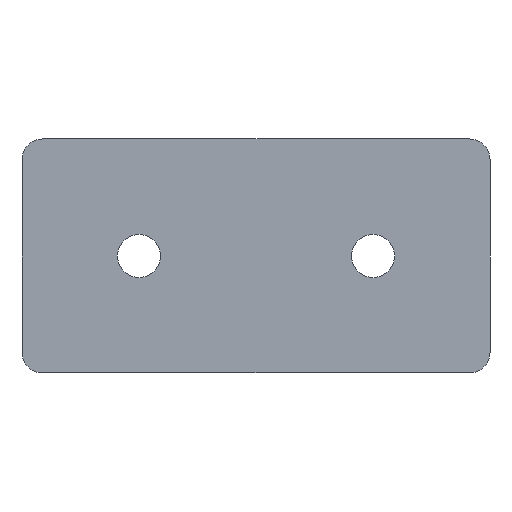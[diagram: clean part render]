
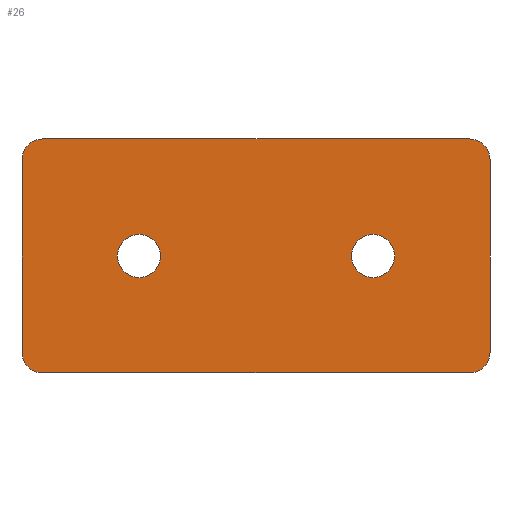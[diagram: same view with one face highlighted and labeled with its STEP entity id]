
A CAD part, front view. The second image highlights one B-rep face of the part: STEP entity #26.
In plain terms, the highlighted planar face has unit normal (0, -1, 0).
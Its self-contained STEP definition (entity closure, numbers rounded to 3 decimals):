
#6 = EDGE_CURVE ( 'NONE', #68, #194, #11, .T. ) ;
#10 = CARTESIAN_POINT ( 'NONE',  ( -41., -5., 18.5 ) ) ;
#11 = LINE ( 'NONE', #204, #326 ) ;
#12 = DIRECTION ( 'NONE',  ( 0., 0., 1. ) ) ;
#13 = DIRECTION ( 'NONE',  ( 1., 0., 0. ) ) ;
#15 = CARTESIAN_POINT ( 'NONE',  ( 41., -5., 18.5 ) ) ;
#16 = CARTESIAN_POINT ( 'NONE',  ( 22.5, -5., 4.15 ) ) ;
#21 = VERTEX_POINT ( 'NONE', #202 ) ;
#22 = AXIS2_PLACEMENT_3D ( 'NONE', #15, #321, #315 ) ;
#26 = ADVANCED_FACE ( 'NONE', ( #126, #122, #244 ), #318, .F. ) ;
#29 = VERTEX_POINT ( 'NONE', #351 ) ;
#30 = DIRECTION ( 'NONE',  ( 1., 0., 0. ) ) ;
#33 = EDGE_LOOP ( 'NONE', ( #101, #416 ) ) ;
#36 = ORIENTED_EDGE ( 'NONE', *, *, #48, .F. ) ;
#39 = CIRCLE ( 'NONE', #317, 4.15 ) ;
#45 = DIRECTION ( 'NONE',  ( 0., 0., 1. ) ) ;
#46 = AXIS2_PLACEMENT_3D ( 'NONE', #10, #246, #393 ) ;
#48 = EDGE_CURVE ( 'NONE', #263, #21, #164, .T. ) ;
#67 = CARTESIAN_POINT ( 'NONE',  ( -22.5, -5., 4.15 ) ) ;
#68 = VERTEX_POINT ( 'NONE', #281 ) ;
#79 = VERTEX_POINT ( 'NONE', #86 ) ;
#80 = CARTESIAN_POINT ( 'NONE',  ( -45., -5., 22.5 ) ) ;
#83 = EDGE_CURVE ( 'NONE', #263, #79, #312, .T. ) ;
#86 = CARTESIAN_POINT ( 'NONE',  ( 41., -5., 22.5 ) ) ;
#89 = EDGE_CURVE ( 'NONE', #489, #68, #392, .T. ) ;
#90 = CIRCLE ( 'NONE', #296, 4.15 ) ;
#91 = CARTESIAN_POINT ( 'NONE',  ( -41., -5., 22.5 ) ) ;
#101 = ORIENTED_EDGE ( 'NONE', *, *, #350, .T. ) ;
#106 = ORIENTED_EDGE ( 'NONE', *, *, #6, .T. ) ;
#120 = VECTOR ( 'NONE', #13, 1000. ) ;
#122 = FACE_BOUND ( 'NONE', #33, .T. ) ;
#123 = EDGE_CURVE ( 'NONE', #444, #412, #39, .T. ) ;
#126 = FACE_BOUND ( 'NONE', #314, .T. ) ;
#131 = CARTESIAN_POINT ( 'NONE',  ( -22.5, -5., 0. ) ) ;
#140 = ORIENTED_EDGE ( 'NONE', *, *, #83, .T. ) ;
#149 = DIRECTION ( 'NONE',  ( 0., -1., 0. ) ) ;
#154 = CARTESIAN_POINT ( 'NONE',  ( 41., -5., -18.5 ) ) ;
#163 = DIRECTION ( 'NONE',  ( 0., 0., -1. ) ) ;
#164 = LINE ( 'NONE', #426, #348 ) ;
#171 = CARTESIAN_POINT ( 'NONE',  ( -45., -5., -18.5 ) ) ;
#175 = AXIS2_PLACEMENT_3D ( 'NONE', #80, #352, #12 ) ;
#194 = VERTEX_POINT ( 'NONE', #171 ) ;
#202 = CARTESIAN_POINT ( 'NONE',  ( 45., -5., -18.5 ) ) ;
#204 = CARTESIAN_POINT ( 'NONE',  ( -45., -5., 22.5 ) ) ;
#206 = EDGE_CURVE ( 'NONE', #381, #29, #408, .T. ) ;
#207 = DIRECTION ( 'NONE',  ( 0., 0., 1. ) ) ;
#214 = DIRECTION ( 'NONE',  ( 0., 0., 1. ) ) ;
#224 = DIRECTION ( 'NONE',  ( 0., 0., 1. ) ) ;
#227 = CARTESIAN_POINT ( 'NONE',  ( -41., -5., -18.5 ) ) ;
#229 = LINE ( 'NONE', #307, #400 ) ;
#244 = FACE_OUTER_BOUND ( 'NONE', #339, .T. ) ;
#246 = DIRECTION ( 'NONE',  ( 0., -1., 0. ) ) ;
#250 = ORIENTED_EDGE ( 'NONE', *, *, #89, .T. ) ;
#259 = DIRECTION ( 'NONE',  ( 0., 1., 0. ) ) ;
#263 = VERTEX_POINT ( 'NONE', #361 ) ;
#272 = AXIS2_PLACEMENT_3D ( 'NONE', #131, #259, #214 ) ;
#274 = EDGE_CURVE ( 'NONE', #29, #381, #364, .T. ) ;
#277 = DIRECTION ( 'NONE',  ( 0., 0., -1. ) ) ;
#278 = ORIENTED_EDGE ( 'NONE', *, *, #385, .T. ) ;
#279 = CIRCLE ( 'NONE', #340, 4. ) ;
#281 = CARTESIAN_POINT ( 'NONE',  ( -45., -5., 18.5 ) ) ;
#282 = CARTESIAN_POINT ( 'NONE',  ( 41., -5., -22.5 ) ) ;
#286 = EDGE_CURVE ( 'NONE', #430, #21, #279, .T. ) ;
#293 = EDGE_CURVE ( 'NONE', #489, #79, #229, .T. ) ;
#296 = AXIS2_PLACEMENT_3D ( 'NONE', #411, #344, #224 ) ;
#297 = AXIS2_PLACEMENT_3D ( 'NONE', #227, #475, #207 ) ;
#301 = ORIENTED_EDGE ( 'NONE', *, *, #293, .F. ) ;
#307 = CARTESIAN_POINT ( 'NONE',  ( -45., -5., 22.5 ) ) ;
#312 = CIRCLE ( 'NONE', #22, 4. ) ;
#314 = EDGE_LOOP ( 'NONE', ( #478, #474 ) ) ;
#315 = DIRECTION ( 'NONE',  ( 0., 0., 1. ) ) ;
#317 = AXIS2_PLACEMENT_3D ( 'NONE', #460, #458, #45 ) ;
#318 = PLANE ( 'NONE',  #175 ) ;
#321 = DIRECTION ( 'NONE',  ( 0., -1., 0. ) ) ;
#322 = CARTESIAN_POINT ( 'NONE',  ( -41., -5., -22.5 ) ) ;
#324 = CARTESIAN_POINT ( 'NONE',  ( -45., -5., -22.5 ) ) ;
#326 = VECTOR ( 'NONE', #163, 1000. ) ;
#332 = ORIENTED_EDGE ( 'NONE', *, *, #286, .T. ) ;
#339 = EDGE_LOOP ( 'NONE', ( #106, #278, #375, #332, #36, #140, #301, #250 ) ) ;
#340 = AXIS2_PLACEMENT_3D ( 'NONE', #154, #149, #372 ) ;
#344 = DIRECTION ( 'NONE',  ( 0., 1., 0. ) ) ;
#348 = VECTOR ( 'NONE', #277, 1000. ) ;
#350 = EDGE_CURVE ( 'NONE', #412, #444, #90, .T. ) ;
#351 = CARTESIAN_POINT ( 'NONE',  ( -22.5, -5., -4.15 ) ) ;
#352 = DIRECTION ( 'NONE',  ( 0., 1., 0. ) ) ;
#361 = CARTESIAN_POINT ( 'NONE',  ( 45., -5., 18.5 ) ) ;
#364 = CIRCLE ( 'NONE', #420, 4.15 ) ;
#372 = DIRECTION ( 'NONE',  ( 0., 0., 1. ) ) ;
#375 = ORIENTED_EDGE ( 'NONE', *, *, #398, .T. ) ;
#376 = CARTESIAN_POINT ( 'NONE',  ( -22.5, -5., 0. ) ) ;
#381 = VERTEX_POINT ( 'NONE', #67 ) ;
#385 = EDGE_CURVE ( 'NONE', #194, #454, #394, .T. ) ;
#391 = CARTESIAN_POINT ( 'NONE',  ( 22.5, -5., -4.15 ) ) ;
#392 = CIRCLE ( 'NONE', #46, 4. ) ;
#393 = DIRECTION ( 'NONE',  ( 0., 0., 1. ) ) ;
#394 = CIRCLE ( 'NONE', #297, 4. ) ;
#398 = EDGE_CURVE ( 'NONE', #454, #430, #431, .T. ) ;
#400 = VECTOR ( 'NONE', #30, 1000. ) ;
#408 = CIRCLE ( 'NONE', #272, 4.15 ) ;
#411 = CARTESIAN_POINT ( 'NONE',  ( 22.5, -5., 0. ) ) ;
#412 = VERTEX_POINT ( 'NONE', #391 ) ;
#416 = ORIENTED_EDGE ( 'NONE', *, *, #123, .T. ) ;
#420 = AXIS2_PLACEMENT_3D ( 'NONE', #376, #486, #446 ) ;
#426 = CARTESIAN_POINT ( 'NONE',  ( 45., -5., 22.5 ) ) ;
#430 = VERTEX_POINT ( 'NONE', #282 ) ;
#431 = LINE ( 'NONE', #324, #120 ) ;
#444 = VERTEX_POINT ( 'NONE', #16 ) ;
#446 = DIRECTION ( 'NONE',  ( 0., 0., 1. ) ) ;
#454 = VERTEX_POINT ( 'NONE', #322 ) ;
#458 = DIRECTION ( 'NONE',  ( 0., 1., 0. ) ) ;
#460 = CARTESIAN_POINT ( 'NONE',  ( 22.5, -5., 0. ) ) ;
#474 = ORIENTED_EDGE ( 'NONE', *, *, #206, .T. ) ;
#475 = DIRECTION ( 'NONE',  ( 0., -1., 0. ) ) ;
#478 = ORIENTED_EDGE ( 'NONE', *, *, #274, .T. ) ;
#486 = DIRECTION ( 'NONE',  ( 0., 1., 0. ) ) ;
#489 = VERTEX_POINT ( 'NONE', #91 ) ;
